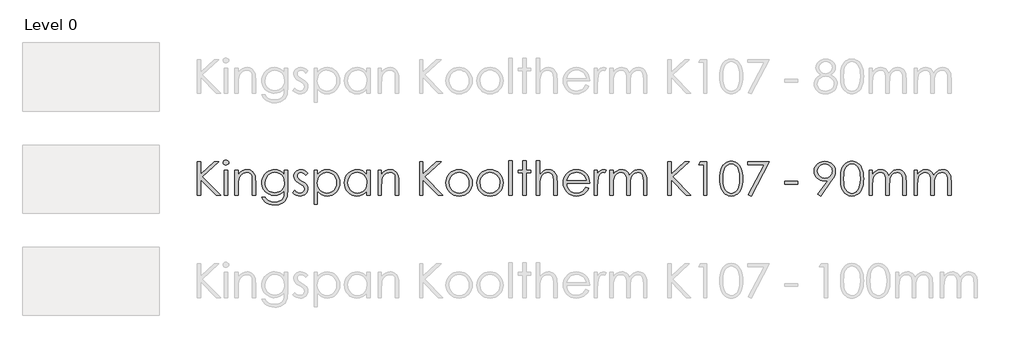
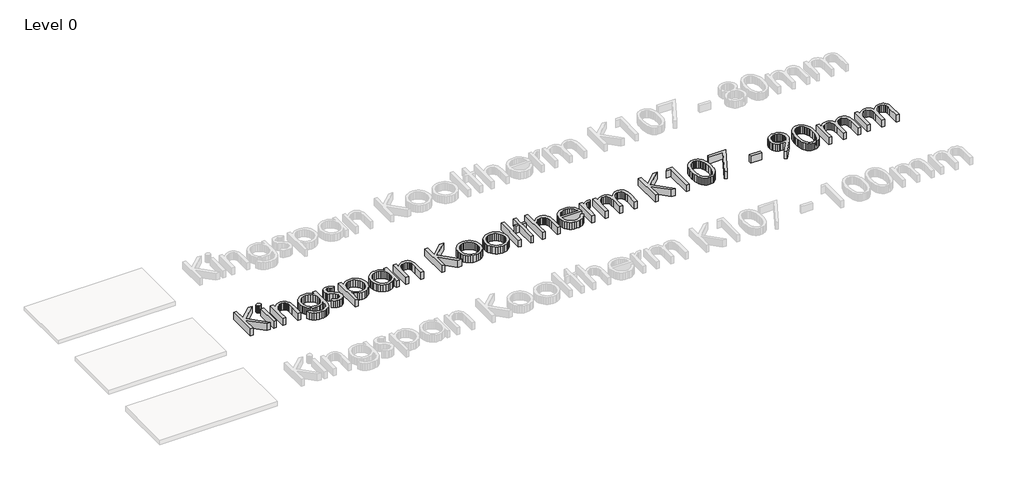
# One storey, part 6 of 13: 1 proxy.
"""IFC4 building model written with IfcOpenShell, lengths in millimetres."""

from ifc_helpers import new_model, si_unit, origin, origin_with_axes, place, context, project, spatial, polyline, outline, extrude, element, save

model = new_model("IFC4")

# Units and contexts
model_context = context("Model", 3, world=origin())
ifc_project = project(units=[si_unit("LENGTHUNIT", "METRE", prefix="MILLI")], contexts=[model_context])

# Site, building, storey
site = spatial("IfcSite", under=ifc_project)
building = spatial("IfcBuilding", under=site)
storey = spatial("IfcBuildingStorey", under=building, Name="Level 0", Elevation=0.0)

# Proxy
placement = place(None, origin())
element("IfcBuildingElementProxy", 1, Name="600mm KI_CenturyGothic", ObjectType="600mm KI_CenturyGothic", at=placement, inside=storey, context=model_context, shape_type="SweptSolid", body=[
    extrude(outline(polyline([(-3852.2663848, -6699.1034017), (-3792.944575, -6699.1034017), (-3792.944575, -6918.316027), (-3555.1938841, -6699.1034017), (-3471.6181051, -6699.1034017), (-3760.9664119, -6966.0515459), (-3441.9572002, -7292.3214999), (-3520.8984627, -7292.3214999), (-3792.944575, -7014.0960325), (-3792.944575, -7292.3214999), (-3852.2663848, -7292.3214999), (-3852.2663848, -6699.1034017)])), origin_with_axes(), (0.0, 0.0, 1.0), 150.0),
    extrude(outline(polyline([(-3348.1854852, -6669.4424967), (-3329.145347, -6672.7252792), (-3313.1176445, -6682.5736265), (-3302.226531, -6697.0178693), (-3298.5961598, -6714.088338), (-3302.226531, -6730.9270809), (-3313.1176445, -6745.2940817), (-3329.145347, -6755.142429), (-3348.1854852, -6758.4252115), (-3366.9938975, -6755.142429), (-3382.9443581, -6745.2940817), (-3393.8354717, -6730.9270809), (-3397.4658428, -6714.088338), (-3393.8354717, -6697.0178693), (-3382.9443581, -6682.5736265), (-3366.9938975, -6672.7252792), (-3348.1854852, -6669.4424967)])), origin_with_axes(), (0.0, 0.0, 1.0), 150.0),
    extrude(outline(polyline([(-3377.6919062, -6847.4079262), (-3318.3700964, -6847.4079262), (-3318.3700964, -7292.3214999), (-3377.6919062, -7292.3214999), (-3377.6919062, -6847.4079262)])), origin_with_axes(), (0.0, 0.0, 1.0), 150.0),
    extrude(outline(polyline([(-3189.8395084, -6847.4079262), (-3130.5176986, -6847.4079262), (-3130.5176986, -6926.5036726), (-3096.9946967, -6886.9944204), (-3060.0730495, -6859.303185), (-3019.7141359, -6842.9665147), (-2975.879335, -6837.5209579), (-2953.4357238, -6839.0995901), (-2932.2955704, -6843.8354865), (-2912.4588747, -6851.7286472), (-2893.9256368, -6862.7790723), (-2877.212412, -6876.5039994), (-2862.835756, -6892.4206667), (-2841.0921499, -6930.8292213), (-2833.6238199, -6955.2087086), (-2828.2892984, -6985.5551357), (-2824.0216812, -7064.1488095), (-2824.0216812, -7292.3214999), (-2883.343491, -7292.3214999), (-2883.343491, -7079.1337458), (-2883.343491, -6976.092998), (-2884.7290183, -6955.2956057), (-2889.8125035, -6937.2403023), (-2898.2849788, -6921.9270877), (-2910.1464442, -6909.355962), (-2924.7403432, -6899.5558909), (-2941.4101193, -6892.5558401), (-2980.977303, -6886.9557994), (-3005.3471351, -6889.1137461), (-3028.4038541, -6895.5875862), (-3050.1474602, -6906.3773197), (-3070.5779533, -6921.4829466), (-3088.6622225, -6939.7651482), (-3103.3671568, -6960.084606), (-3114.6927562, -6982.44132), (-3122.6390208, -7006.8352901), (-3128.5480292, -7053.9142525), (-3130.5176986, -7128.4141035), (-3130.5176986, -7292.3214999), (-3189.8395084, -7292.3214999), (-3189.8395084, -6847.4079262)])), origin_with_axes(), (0.0, 0.0, 1.0), 150.0),
    extrude(outline(polyline([(-2319.7862977, -6847.4079262), (-2260.4644879, -6847.4079262), (-2260.4644879, -7198.395301), (-2264.5196897, -7278.6496765), (-2269.588692, -7309.4499001), (-2276.6852953, -7334.0321474), (-2289.9371156, -7362.6454585), (-2307.2924139, -7387.7732271), (-2328.7511904, -7409.4154531), (-2354.3134448, -7427.5721366), (-2383.3226209, -7441.9343098), (-2415.122162, -7452.1930049), (-2449.7120682, -7458.348222), (-2487.0923395, -7460.3999611), (-2541.0458345, -7456.3833802), (-2589.206184, -7444.3336376), (-2630.260275, -7425.5059147), (-2662.8949946, -7401.1553932), (-2690.2000204, -7367.8061856), (-2715.2650299, -7321.9824048), (-2655.94322, -7321.9824048), (-2642.4355358, -7343.151524), (-2627.0933555, -7361.3951046), (-2609.9166791, -7376.7131468), (-2590.9055067, -7389.1056506), (-2569.7894914, -7398.6691682), (-2546.2982864, -7405.5002523), (-2492.1903075, -7410.9651195), (-2438.5071593, -7405.6354257), (-2415.083541, -7398.9733084), (-2393.93856, -7389.6463441), (-2359.6624492, -7365.6047903), (-2336.8567664, -7336.1176798), (-2329.3884364, -7317.4782342), (-2324.0539149, -7293.7697863), (-2319.7862977, -7231.1458835), (-2319.7862977, -7208.4367532), (-2354.757586, -7244.2190818), (-2396.6420279, -7270.6165148), (-2443.392712, -7286.8952536), (-2492.9627269, -7292.3214999), (-2522.4063889, -7290.4242447), (-2550.9521133, -7284.7324793), (-2578.5999001, -7275.2462036), (-2605.3497494, -7261.9654175), (-2630.1540674, -7245.4742634), (-2651.9652601, -7226.3568832), (-2670.7833277, -7204.6132772), (-2686.6082702, -7180.2434451), (-2699.1456025, -7153.9280817), (-2708.1008399, -7126.3478816), (-2713.4739824, -7097.5028447), (-2715.2650299, -7067.392971), (-2713.3967404, -7037.1044753), (-2707.7918722, -7007.8780563), (-2698.4504251, -6979.713714), (-2685.3723991, -6952.6114483), (-2668.9971079, -6927.4257483), (-2649.7638648, -6905.0111029), (-2627.67267, -6885.367512), (-2602.7235235, -6868.4949758), (-2575.9833294, -6854.943843), (-2548.5189922, -6845.2644624), (-2520.3305117, -6839.456834), (-2491.4178881, -6837.5209579), (-2444.5320306, -6842.4644421), (-2400.8903346, -6857.2948945), (-2359.6045177, -6883.8661218), (-2319.7862977, -6924.0319306), (-2319.7862977, -6847.4079262)]), holes=[polyline([(-2484.1571458, -6886.9557994), (-2529.0154023, -6892.9806707), (-2570.5908765, -6911.0552847), (-2606.2187212, -6939.7699758), (-2633.2340897, -6977.7150788), (-2650.2659375, -7021.9940208), (-2655.94322, -7069.7102292), (-2653.0080263, -7105.6229036), (-2644.2024452, -7138.2817613), (-2629.5264766, -7167.6868023), (-2608.9801206, -7193.8380266), (-2583.7606272, -7215.296803), (-2555.0652466, -7230.6245004), (-2522.8939786, -7239.8211189), (-2487.2468234, -7242.8866584), (-2451.3244937, -7239.845257), (-2419.1001219, -7230.7210528), (-2390.573708, -7215.5140459), (-2365.7452519, -7194.2242363), (-2345.6382095, -7167.9812872), (-2331.2760363, -7137.9148621), (-2322.6587323, -7104.024961), (-2319.7862977, -7066.3115838), (-2325.0773706, -7017.6105407), (-2340.9505892, -6974.3936754), (-2366.4983608, -6938.1672056), (-2400.8130926, -6910.4373492), (-2440.9982119, -6892.8261869), (-2484.1571458, -6886.9557994)])]), origin_with_axes(), (0.0, 0.0, 1.0), 150.0),
    extrude(outline(polyline([(-1904.5336289, -6898.6965743), (-1940.9918246, -6936.390641), (-1962.9575012, -6914.7628978), (-1984.6721416, -6899.3145098), (-2006.1357456, -6890.045477), (-2027.3483133, -6886.9557994), (-2052.181597, -6891.6289368), (-2073.2300256, -6905.6483489), (-2087.5970264, -6925.8857371), (-2092.3860267, -6949.212803), (-2088.4466878, -6970.7633042), (-2076.628671, -6991.2324183), (-2052.0657341, -7013.400855), (-2010.2006027, -7039.122421), (-1958.3326401, -7071.9888664), (-1939.8428507, -7087.8138088), (-1926.315856, -7103.2332311), (-1909.9791857, -7135.9065716), (-1904.5336289, -7172.4420092), (-1906.9474396, -7198.5884059), (-1914.1888714, -7222.6492701), (-1926.2579245, -7244.624602), (-1943.1545989, -7264.5144015), (-1963.6719892, -7281.0055557), (-1986.6031901, -7292.7849515), (-2011.9482016, -7299.852589), (-2039.7070237, -7302.2084682), (-2077.4397114, -7298.3270607), (-2113.3958344, -7286.6828383), (-2145.4512394, -7268.2027042), (-2171.4817731, -7243.8135617), (-2135.7959969, -7203.3387852), (-2114.0041146, -7224.9665283), (-2091.5749863, -7240.4149163), (-2068.5086121, -7249.6839491), (-2044.8049918, -7252.7736267), (-2013.637869, -7247.1349651), (-1987.4914724, -7230.2189802), (-1969.7644472, -7205.6560434), (-1963.8554388, -7177.0765256), (-1967.7561567, -7153.2860081), (-1979.4583106, -7132.2762005), (-2005.0253927, -7110.5712154), (-2050.2119275, -7083.7682622), (-2099.762632, -7053.1032121), (-2117.441381, -7037.9444814), (-2130.3890611, -7022.9016136), (-2146.3781427, -6990.7689666), (-2151.7078365, -6954.310771), (-2149.5305794, -6930.2643896), (-2142.9988078, -6908.3325063), (-2132.1125219, -6888.5151211), (-2116.8717217, -6870.812234), (-2098.309518, -6856.2473007), (-2077.4590218, -6845.8437769), (-2054.3202332, -6839.6016627), (-2028.8931521, -6837.5209579), (-1997.9481, -6841.3444339), (-1966.9064954, -6852.814862), (-1935.7683384, -6871.9322421), (-1904.5336289, -6898.6965743)])), origin_with_axes(), (0.0, 0.0, 1.0), 150.0),
    extrude(outline(polyline([(-1795.7769776, -6847.4079262), (-1736.4551678, -6847.4079262), (-1736.4551678, -6928.5119631), (-1700.9238754, -6888.2689124), (-1660.4490989, -6859.9211205), (-1614.9922173, -6843.1209986), (-1564.5146096, -6837.5209579), (-1520.0618732, -6841.7596094), (-1478.9305402, -6854.4755637), (-1441.1206107, -6875.668821), (-1406.6320845, -6905.3393811), (-1377.9077381, -6940.9768811), (-1357.3903478, -6980.070958), (-1345.0799137, -7022.6216116), (-1340.9764356, -7068.628842), (-1345.0412927, -7115.5291824), (-1357.235864, -7158.7508754), (-1377.5601494, -7198.293921), (-1406.014149, -7234.1583192), (-1440.2130179, -7263.9302594), (-1477.7719111, -7285.1959309), (-1518.6908288, -7297.9553339), (-1562.9697708, -7302.2084682), (-1612.6170277, -7296.743601), (-1658.0545988, -7280.3489992), (-1699.3211052, -7253.1019049), (-1736.4551678, -7215.07956), (-1736.4551678, -7450.5129928), (-1795.7769776, -7450.5129928), (-1795.7769776, -6847.4079262)]), holes=[polyline([(-1568.5311905, -6886.9557994), (-1602.5852307, -6890.2530647), (-1633.8392507, -6900.1448607), (-1662.2932503, -6916.6311872), (-1687.9472295, -6939.7120444), (-1709.1694525, -6967.6977647), (-1724.3281832, -6998.8986808), (-1733.4234216, -7033.3147926), (-1736.4551678, -7070.9461002), (-1731.048232, -7119.8016272), (-1714.8274246, -7163.4819442), (-1688.5265441, -7200.3263495), (-1652.8793888, -7228.6741414), (-1611.4390881, -7246.7487554), (-1567.7587711, -7252.7736267), (-1525.0632888, -7246.7101344), (-1485.0326535, -7228.5196576), (-1450.2544701, -7199.4187567), (-1423.3163435, -7160.6239924), (-1406.05277, -7115.9588407), (-1400.2982454, -7069.2467775), (-1405.9948385, -7022.3029886), (-1423.0846177, -6977.8695627), (-1449.8103289, -6939.5189395), (-1484.414718, -6910.8235589), (-1524.7157001, -6892.9227393), (-1568.5311905, -6886.9557994)])]), origin_with_axes(), (0.0, 0.0, 1.0), 150.0),
    extrude(outline(polyline([(-807.0801472, -6847.4079262), (-807.0801472, -7292.3214999), (-866.401957, -7292.3214999), (-866.401957, -7216.4699149), (-903.4780882, -7254.3184655), (-944.8797679, -7281.0441767), (-990.4525125, -7296.9173953), (-1040.0418379, -7302.2084682), (-1084.3159523, -7297.9553339), (-1125.2203871, -7285.1959309), (-1162.7551422, -7263.9302594), (-1196.9202178, -7234.1583192), (-1225.340424, -7198.293921), (-1245.6405713, -7158.7508754), (-1257.8206597, -7115.5291824), (-1261.8806892, -7068.628842), (-1257.7820388, -7022.6216116), (-1245.4860875, -6980.070958), (-1224.9928353, -6940.9768811), (-1196.3022822, -6905.3393811), (-1161.8475494, -6875.668821), (-1124.061758, -6854.4755637), (-1082.9449079, -6841.7596094), (-1038.4969991, -6837.5209579), (-987.7490446, -6843.1209986), (-942.0990581, -6859.9211205), (-921.2051134, -6872.6081091), (-901.6242816, -6888.2689124), (-866.401957, -6928.5119631), (-866.401957, -6847.4079262), (-807.0801472, -6847.4079262)]), holes=[polyline([(-1034.3259343, -6886.9557994), (-1078.1414247, -6892.9227393), (-1118.4424068, -6910.8235589), (-1153.0467959, -6939.5189395), (-1179.7725071, -6977.8695627), (-1196.8622863, -7022.3029886), (-1202.5588794, -7069.2467775), (-1196.8043548, -7115.9588407), (-1179.5407813, -7160.6239924), (-1152.6026548, -7199.4187567), (-1117.8244713, -7228.5196576), (-1077.6779731, -7246.7101344), (-1034.6349021, -7252.7736267), (-991.0125165, -7246.7487554), (-949.7460102, -7228.6741414), (-914.2726493, -7200.3263495), (-888.0297002, -7163.4819442), (-871.8088928, -7119.8016272), (-866.401957, -7070.9461002), (-869.4337032, -7033.3147926), (-878.5289416, -6998.8986808), (-893.6876723, -6967.6977647), (-914.9098953, -6939.7120444), (-940.5638746, -6916.6311872), (-969.0178742, -6900.1448607), (-1000.2718941, -6890.2530647), (-1034.3259343, -6886.9557994)])]), origin_with_axes(), (0.0, 0.0, 1.0), 150.0),
    extrude(outline(polyline([(-668.662591, -6847.4079262), (-609.3407811, -6847.4079262), (-609.3407811, -6926.5036726), (-575.8177792, -6886.9944204), (-538.896132, -6859.303185), (-498.5372184, -6842.9665147), (-454.7024175, -6837.5209579), (-432.2588064, -6839.0995901), (-411.1186529, -6843.8354865), (-391.2819572, -6851.7286472), (-372.7487193, -6862.7790723), (-356.0354946, -6876.5039994), (-341.6588385, -6892.4206667), (-319.9152324, -6930.8292213), (-312.4469024, -6955.2087086), (-307.1123809, -6985.5551357), (-302.8447637, -7064.1488095), (-302.8447637, -7292.3214999), (-362.1665735, -7292.3214999), (-362.1665735, -7079.1337458), (-362.1665735, -6976.092998), (-363.5521008, -6955.2956057), (-368.635586, -6937.2403023), (-377.1080613, -6921.9270877), (-388.9695267, -6909.355962), (-403.5634257, -6899.5558909), (-420.2332018, -6892.5558401), (-459.8003855, -6886.9557994), (-484.1702176, -6889.1137461), (-507.2269366, -6895.5875862), (-528.9705427, -6906.3773197), (-549.4010358, -6921.4829466), (-567.485305, -6939.7651482), (-582.1902393, -6960.084606), (-593.5158387, -6982.44132), (-601.4621033, -7006.8352901), (-607.3711117, -7053.9142525), (-609.3407811, -7128.4141035), (-609.3407811, -7292.3214999), (-668.662591, -7292.3214999), (-668.662591, -6847.4079262)])), origin_with_axes(), (0.0, 0.0, 1.0), 150.0),
    extrude(outline(polyline([(62.9730635, -6699.1034017), (122.2948734, -6699.1034017), (122.2948734, -6918.316027), (360.0455643, -6699.1034017), (443.6213432, -6699.1034017), (154.2730365, -6966.0515459), (473.2822481, -7292.3214999), (394.3409856, -7292.3214999), (122.2948734, -7014.0960325), (122.2948734, -7292.3214999), (62.9730635, -7292.3214999), (62.9730635, -6699.1034017)])), origin_with_axes(), (0.0, 0.0, 1.0), 150.0),
    extrude(outline(polyline([(760.1588128, -6837.5209579), (809.4681362, -6842.1458191), (854.3553585, -6856.0204025), (894.8204798, -6879.1447083), (930.8635, -6911.5187363), (957.7630055, -6946.7507161), (976.9769381, -6985.091684), (988.5052976, -7026.54164), (992.3480841, -7071.1005841), (988.283227, -7115.9153921), (976.0886558, -7157.8239721), (955.7643703, -7196.8263241), (927.3103707, -7232.9224481), (892.4742558, -7263.2350819), (853.0036246, -7284.8869632), (808.8984769, -7297.8780919), (760.1588128, -7302.2084682), (711.2839754, -7297.8780919), (667.0822753, -7284.8869632), (627.5537126, -7263.2350819), (592.6982872, -7232.9224481), (564.2442876, -7196.8263241), (543.9200022, -7157.8239721), (531.7254309, -7115.9153921), (527.6605738, -7071.1005841), (531.5033603, -7026.7347449), (543.0317198, -6985.4006518), (562.2456524, -6947.0983049), (589.145158, -6911.8277041), (625.2074886, -6879.3185026), (665.7305413, -6856.0976445), (710.7143161, -6842.1651295), (760.1588128, -6837.5209579)]), holes=[polyline([(760.004329, -6886.9557994), (725.7282181, -6890.3303067), (693.9624704, -6900.4538284), (664.7070856, -6917.3263647), (637.962064, -6940.9479154), (615.6584538, -6969.3584664), (599.7273037, -7000.5980035), (590.1686137, -7034.6665266), (586.9823836, -7071.5640357), (592.7948396, -7119.2995546), (610.2322075, -7163.6364281), (637.5758543, -7201.4270471), (673.1071466, -7229.5238028), (714.6439998, -7246.9611707), (760.004329, -7252.7736267), (805.3646581, -7246.9611707), (846.9015113, -7229.5238028), (882.4328037, -7201.4270471), (909.7764504, -7163.6364281), (927.2138183, -7119.2995546), (933.0262743, -7071.5640357), (929.8255614, -7034.6665266), (920.2234227, -7000.5980035), (904.2198583, -6969.3584664), (881.8148681, -6940.9479154), (854.9974321, -6917.3263647), (825.7565303, -6900.4538284), (794.0921625, -6890.3303067), (760.004329, -6886.9557994)])]), origin_with_axes(), (0.0, 0.0, 1.0), 150.0),
    extrude(outline(polyline([(1303.9420695, -6837.5209579), (1353.2513929, -6842.1458191), (1398.1386152, -6856.0204025), (1438.6037365, -6879.1447083), (1474.6467567, -6911.5187363), (1501.5462622, -6946.7507161), (1520.7601948, -6985.091684), (1532.2885543, -7026.54164), (1536.1313408, -7071.1005841), (1532.0664837, -7115.9153921), (1519.8719125, -7157.8239721), (1499.547627, -7196.8263241), (1471.0936274, -7232.9224481), (1436.2575126, -7263.2350819), (1396.7868813, -7284.8869632), (1352.6817336, -7297.8780919), (1303.9420695, -7302.2084682), (1255.0672321, -7297.8780919), (1210.865532, -7284.8869632), (1171.3369693, -7263.2350819), (1136.4815439, -7232.9224481), (1108.0275443, -7196.8263241), (1087.7032589, -7157.8239721), (1075.5086876, -7115.9153921), (1071.4438305, -7071.1005841), (1075.286617, -7026.7347449), (1086.8149766, -6985.4006518), (1106.0289091, -6947.0983049), (1132.9284147, -6911.8277041), (1168.9907453, -6879.3185026), (1209.5137981, -6856.0976445), (1254.4975728, -6842.1651295), (1303.9420695, -6837.5209579)]), holes=[polyline([(1303.7875857, -6886.9557994), (1269.5114748, -6890.3303067), (1237.7457271, -6900.4538284), (1208.4903423, -6917.3263647), (1181.7453207, -6940.9479154), (1159.4417105, -6969.3584664), (1143.5105604, -7000.5980035), (1133.9518704, -7034.6665266), (1130.7656404, -7071.5640357), (1136.5780963, -7119.2995546), (1154.0154643, -7163.6364281), (1181.359111, -7201.4270471), (1216.8904033, -7229.5238028), (1258.4272565, -7246.9611707), (1303.7875857, -7252.7736267), (1349.1479149, -7246.9611707), (1390.684768, -7229.5238028), (1426.2160604, -7201.4270471), (1453.5597071, -7163.6364281), (1470.997075, -7119.2995546), (1476.809531, -7071.5640357), (1473.6088181, -7034.6665266), (1464.0066795, -7000.5980035), (1448.003115, -6969.3584664), (1425.5981249, -6940.9479154), (1398.7806889, -6917.3263647), (1369.539787, -6900.4538284), (1337.8754193, -6890.3303067), (1303.7875857, -6886.9557994)])]), origin_with_axes(), (0.0, 0.0, 1.0), 150.0),
    extrude(outline(polyline([(1635.0010238, -6679.3294651), (1694.3228337, -6679.3294651), (1694.3228337, -7292.3214999), (1635.0010238, -7292.3214999), (1635.0010238, -6679.3294651)])), origin_with_axes(), (0.0, 0.0, 1.0), 150.0),
    extrude(outline(polyline([(1882.1752314, -6679.3294651), (1941.4970413, -6679.3294651), (1941.4970413, -6847.4079262), (2020.5927877, -6847.4079262), (2020.5927877, -6896.8427677), (1941.4970413, -6896.8427677), (1941.4970413, -7292.3214999), (1882.1752314, -7292.3214999), (1882.1752314, -6896.8427677), (1803.079485, -6896.8427677), (1803.079485, -6847.4079262), (1882.1752314, -6847.4079262), (1882.1752314, -6679.3294651)])), origin_with_axes(), (0.0, 0.0, 1.0), 150.0),
    extrude(outline(polyline([(2119.4624707, -6679.3294651), (2178.7842806, -6679.3294651), (2178.7842806, -6928.0485114), (2212.5583188, -6888.3461544), (2249.6151394, -6860.0756044), (2289.9161216, -6843.1596195), (2333.4226442, -6837.5209579), (2355.8662553, -6839.0995901), (2377.0064088, -6843.8354865), (2396.8431044, -6851.7286472), (2415.3763424, -6862.7790723), (2432.0895671, -6876.4895166), (2446.4662232, -6892.3627352), (2468.2098293, -6930.5974955), (2475.6781593, -6954.9045684), (2481.0126808, -6985.2654784), (2485.280298, -7064.1488095), (2485.280298, -7292.3214999), (2425.9584882, -7292.3214999), (2425.9584882, -7079.1337458), (2424.5681332, -7014.752589), (2420.3970685, -6976.092998), (2406.879729, -6937.2403023), (2397.1665551, -6921.9270877), (2385.4837117, -6909.355962), (2371.840854, -6899.5558909), (2356.2476374, -6892.5558401), (2319.2101273, -6886.9557994), (2296.3416854, -6889.1137461), (2274.6994594, -6895.5875862), (2254.2834492, -6906.3773197), (2235.0936547, -6921.4829466), (2218.1052556, -6939.7651482), (2204.2934312, -6960.084606), (2193.6581816, -6982.44132), (2186.1995068, -7006.8352901), (2180.6380871, -7053.6825267), (2178.7842806, -7128.4141035), (2178.7842806, -7292.3214999), (2119.4624707, -7292.3214999), (2119.4624707, -6679.3294651)])), origin_with_axes(), (0.0, 0.0, 1.0), 150.0),
    extrude(outline(polyline([(2991.0605203, -7144.0169753), (3038.950523, -7169.1978477), (3013.3255094, -7211.0822896), (2984.0315038, -7244.0452875), (2950.952643, -7269.1296074), (2913.9730643, -7287.3780157), (2872.4941426, -7298.5008551), (2825.9172528, -7302.2084682), (2774.4258447, -7297.7767119), (2728.8627554, -7284.481443), (2689.227985, -7262.3226615), (2655.5215335, -7231.3003674), (2628.6220279, -7194.6973431), (2609.4080954, -7155.7963712), (2597.8797358, -7114.5974515), (2594.0369493, -7071.1005841), (2597.3197318, -7030.2202874), (2607.1680791, -6991.618628), (2623.5819913, -6955.2956057), (2646.5614684, -6921.2512207), (2682.7493173, -6884.6192308), (2724.5758277, -6858.4535236), (2772.0409998, -6842.7540993), (2825.1448334, -6837.5209579), (2879.7935059, -6842.8892727), (2928.6490329, -6858.9942172), (2971.7114143, -6885.8357913), (3008.9806503, -6923.4139951), (3030.4539096, -6955.585263), (3045.9022976, -6991.541386), (3055.3258143, -7031.2823641), (3058.7244596, -7074.8081972), (2653.3587591, -7074.8081972), (2657.095338, -7112.0629503), (2666.6057518, -7145.8128504), (2681.8900007, -7176.0578975), (2702.9480845, -7202.7980916), (2728.3124066, -7224.6623882), (2756.5153699, -7240.2797429), (2787.5569744, -7249.6501557), (2821.4372203, -7252.7736267), (2854.9602222, -7249.761191), (2887.5563208, -7240.7238841), (2917.2944677, -7226.6851615), (2942.2436143, -7208.668479), (2965.725164, -7182.5027719), (2991.0605203, -7144.0169753)]), holes=[polyline([(2999.4026498, -7025.3733557), (2984.9777175, -6982.8516678), (2965.1844704, -6949.8307385), (2939.0766947, -6924.3022774), (2905.7081767, -6904.257994), (2867.7630738, -6891.2813481), (2827.9255433, -6886.9557994), (2795.503239, -6889.6689226), (2765.4368139, -6897.808292), (2737.726268, -6911.3739077), (2712.3716012, -6930.3657696), (2695.8321708, -6948.179692), (2681.4362043, -6969.9522638), (2669.1837016, -6995.683485), (2659.0746627, -7025.3733557), (2999.4026498, -7025.3733557)])]), origin_with_axes(), (0.0, 0.0, 1.0), 150.0),
    extrude(outline(polyline([(3137.820206, -6847.4079262), (3197.1420159, -6847.4079262), (3197.1420159, -6911.8277041), (3222.6897875, -6878.7874643), (3249.589293, -6855.6728138), (3277.7632906, -6842.0589219), (3307.1345382, -6837.5209579), (3330.4616041, -6841.305813), (3355.3335087, -6852.6603781), (3325.8270877, -6894.6799934), (3297.2475699, -6886.9557994), (3270.8308265, -6892.9034288), (3245.3409863, -6910.7463169), (3223.2884125, -6941.1023993), (3207.183468, -6984.5896114), (3199.6523789, -7042.7141712), (3197.1420159, -7140.1548783), (3197.1420159, -7292.3214999), (3137.820206, -7292.3214999), (3137.820206, -6847.4079262)])), origin_with_axes(), (0.0, 0.0, 1.0), 150.0),
    extrude(outline(polyline([(3414.6553185, -6847.4079262), (3473.9771284, -6847.4079262), (3473.9771284, -6923.5684789), (3503.5607913, -6887.0716623), (3533.9168737, -6861.9294109), (3577.3268439, -6843.6230712), (3622.8995884, -6837.5209579), (3653.7384329, -6840.668567), (3682.9165757, -6850.1113941), (3708.6767627, -6864.7873627), (3729.2617397, -6883.634396), (3746.0425511, -6909.0663047), (3760.3902414, -6943.4968994), (3775.16759, -6919.0981017), (3791.6925376, -6897.808292), (3809.965084, -6879.6274704), (3829.9852293, -6864.5556369), (3851.2798666, -6852.7279648), (3873.375889, -6844.2796277), (3896.2732965, -6839.2106253), (3919.9720892, -6837.5209579), (3962.3006723, -6843.3334139), (3981.4952943, -6850.5989839), (3999.3768034, -6860.7707818), (4015.4914031, -6873.53984), (4029.385297, -6888.5971907), (4050.5109676, -6925.5767694), (4057.8103309, -6948.9521114), (4063.0241619, -6977.5219739), (4067.1952266, -7050.2452603), (4067.1952266, -7292.3214999), (4007.8734168, -7292.3214999), (4007.8734168, -7046.6921311), (4005.4209852, -6985.5744462), (3998.0636904, -6947.1272706), (3984.7587663, -6922.6608861), (3964.4634466, -6903.4855746), (3938.3942919, -6891.0882432), (3907.7678627, -6886.9557994), (3888.1194443, -6888.5054659), (3869.3399976, -6893.1544651), (3834.3880198, -6911.7504621), (3805.6540182, -6940.6968791), (3785.8800816, -6977.9468046), (3779.1889985, -7002.1042213), (3774.4096535, -7033.1747916), (3770.5861775, -7116.0553931), (3770.5861775, -7292.3214999), (3711.2643677, -7292.3214999), (3711.2643677, -7061.9860352), (3708.850557, -6993.530366), (3701.6091252, -6951.2983353), (3688.3621325, -6925.0553863), (3667.9316394, -6904.5669617), (3641.6114484, -6891.35859), (3610.6953619, -6886.9557994), (3573.7544042, -6892.9999812), (3539.2465676, -6911.1325266), (3510.2808401, -6939.499629), (3489.9662099, -6976.2474819), (3477.9743988, -7028.0768236), (3473.9771284, -7101.6883923), (3473.9771284, -7292.3214999), (3414.6553185, -7292.3214999), (3414.6553185, -6847.4079262)])), origin_with_axes(), (0.0, 0.0, 1.0), 150.0),
    extrude(outline(polyline([(4433.0130538, -6699.1034017), (4492.3348637, -6699.1034017), (4492.3348637, -6918.316027), (4730.0855546, -6699.1034017), (4813.6613335, -6699.1034017), (4524.3130268, -6966.0515459), (4843.3222385, -7292.3214999), (4764.3809759, -7292.3214999), (4492.3348637, -7014.0960325), (4492.3348637, -7292.3214999), (4433.0130538, -7292.3214999), (4433.0130538, -6699.1034017)])), origin_with_axes(), (0.0, 0.0, 1.0), 150.0),
    extrude(outline(polyline([(5010.6282802, -6699.1034017), (5125.1008351, -6699.1034017), (5125.1008351, -7292.3214999), (5065.7790253, -7292.3214999), (5065.7790253, -6748.5382432), (4976.7963106, -6748.5382432), (5010.6282802, -6699.1034017)])), origin_with_axes(), (0.0, 0.0, 1.0), 150.0),
    extrude(outline(polyline([(5352.5011061, -6995.8669347), (5354.0797383, -6941.4355052), (5358.8156347, -6893.5406748), (5366.7087954, -6852.1824436), (5377.7592204, -6817.3608116), (5391.6869077, -6787.7192172), (5408.2118552, -6761.9010988), (5427.334063, -6739.9064564), (5449.053531, -6721.73529), (5472.747496, -6707.5082902), (5497.793195, -6697.3461475), (5524.190628, -6691.2488619), (5551.9397949, -6689.2164334), (5580.1427582, -6691.2633448), (5606.974677, -6697.404079), (5632.4355515, -6707.638636), (5656.5253815, -6721.9670159), (5678.7083011, -6740.3843909), (5698.4484443, -6762.8859335), (5715.7458112, -6789.4716437), (5730.6004018, -6820.1415214), (5742.5294539, -6855.6583309), (5751.0502054, -6896.7848363), (5756.1626563, -6943.5210375), (5757.8668066, -6995.8669347), (5756.1867944, -7048.0535203), (5751.1467578, -7094.6207548), (5742.7466968, -7135.5686382), (5730.9866115, -7170.8971704), (5716.2768496, -7201.4222195), (5699.0277589, -7227.9596535), (5679.2393394, -7250.5094723), (5656.9115912, -7269.071676), (5632.6527944, -7283.5690226), (5607.0712295, -7293.9242701), (5580.1668963, -7300.1374187), (5551.9397949, -7302.2084682), (5524.2147661, -7300.2001778), (5497.8897474, -7294.1753064), (5472.964739, -7284.1338543), (5449.4397407, -7270.0758212), (5427.8651013, -7252.0398282), (5408.7911698, -7230.0644964), (5392.2179461, -7204.1498255), (5378.1454301, -7174.2958158), (5366.9260384, -7139.2762513), (5358.9121871, -7097.8649163), (5354.1038764, -7050.0618107), (5352.5011061, -6995.8669347)]), holes=[polyline([(5411.8229159, -6995.7124508), (5416.206396, -7084.038609), (5421.6857461, -7119.0195525), (5429.3568363, -7147.8790723), (5439.1713903, -7172.1185586), (5451.0811319, -7193.2394015), (5465.0860611, -7211.2416011), (5481.1861779, -7226.1251574), (5516.4857445, -7246.1115094), (5534.8886366, -7251.1080973), (5553.7936014, -7252.7736267), (5572.7854634, -7251.1418907), (5591.1400794, -7246.2466828), (5625.9375733, -7226.665851), (5641.694929, -7211.9898824), (5655.4439943, -7194.0697524), (5667.1847692, -7172.9054608), (5676.9172536, -7148.4970078), (5686.3793912, -7115.1381451), (5693.138061, -7078.5544313), (5698.5449967, -6995.7124508), (5693.7173755, -6914.1063413), (5687.682849, -6879.4150551), (5679.2345118, -6848.7982811), (5668.652366, -6822.135329), (5656.2164137, -6799.3055082), (5641.9266548, -6780.3088186), (5625.7830894, -6765.1452603), (5590.7152487, -6745.2747712), (5572.4861509, -6740.307149), (5553.7936014, -6738.6512749), (5534.7776014, -6740.307149), (5516.3505711, -6745.2747712), (5481.2634199, -6765.1452603), (5465.3177869, -6779.9564022), (5451.3900996, -6797.8958428), (5439.480358, -6818.9635819), (5429.5885621, -6843.1596195), (5421.8160919, -6872.0143117), (5416.2643275, -6907.0580143), (5411.8229159, -6995.7124508)])]), origin_with_axes(), (0.0, 0.0, 1.0), 150.0),
    extrude(outline(polyline([(5846.8495213, -6699.1034017), (6222.5543169, -6699.1034017), (5906.1713311, -7302.2084682), (5852.2564571, -7279.8083056), (6130.9453762, -6748.5382432), (5846.8495213, -6748.5382432), (5846.8495213, -6699.1034017)])), origin_with_axes(), (0.0, 0.0, 1.0), 150.0),
    extrude(outline(polyline([(6499.3894294, -7045.1472923), (6726.7897004, -7045.1472923), (6726.7897004, -7094.5821338), (6499.3894294, -7094.5821338), (6499.3894294, -7045.1472923)])), origin_with_axes(), (0.0, 0.0, 1.0), 150.0),
    extrude(outline(polyline([(7132.1554008, -7302.2084682), (7081.1757205, -7274.5558537), (7254.5066336, -7029.3899366), (7192.24963, -7035.260324), (7156.3514385, -7032.1899569), (7123.2725777, -7022.9788556), (7093.0130478, -7007.62702), (7065.5728486, -6986.1344502), (7042.7961316, -6960.1521927), (7026.527048, -6931.3312939), (7016.7655979, -6899.6717538), (7013.5117812, -6865.1735724), (7015.0421371, -6841.1368462), (7019.6332049, -6818.3070254), (7027.2849846, -6796.6841098), (7037.9974761, -6776.2680996), (7051.5196432, -6757.450032), (7067.6004496, -6740.6209443), (7107.4379801, -6712.9297089), (7154.0148698, -6695.1447522), (7203.835921, -6689.2164334), (7252.5562746, -6695.0481998), (7297.3759102, -6712.5434992), (7317.6615747, -6725.3753165), (7335.6492914, -6740.5437024), (7351.3390604, -6758.048657), (7364.7308818, -6777.8901803), (7383.095153, -6821.2615296), (7389.2165767, -6867.3363467), (7385.3931007, -6904.180752), (7373.9226726, -6942.72448), (7352.6038972, -6986.1344502), (7319.2353792, -7037.5775822), (7132.1554008, -7302.2084682)]), holes=[polyline([(7204.7628243, -6985.8254825), (7231.0154286, -6983.5613281), (7254.7769804, -6976.768865), (7276.0474796, -6965.4480932), (7294.8269262, -6949.5990127), (7310.1691065, -6930.5540469), (7321.1278067, -6909.6456193), (7327.7030268, -6886.8737299), (7329.8947669, -6862.2383787), (7327.5437153, -6837.6030275), (7320.4905607, -6814.8311381), (7308.735303, -6793.9227105), (7292.2779422, -6774.8777447), (7272.4798675, -6759.0286641), (7250.702468, -6747.7078923), (7226.9457439, -6740.9154292), (7201.2096951, -6738.6512749), (7175.6088196, -6740.9154292), (7151.9486479, -6747.7078923), (7130.2291799, -6759.0286641), (7110.4504157, -6774.8777447), (7093.9930549, -6793.9227105), (7082.2377972, -6814.8311381), (7075.1846425, -6837.6030275), (7072.833591, -6862.2383787), (7075.2474016, -6886.8737299), (7082.4888335, -6909.6456193), (7094.5578866, -6930.5540469), (7111.4545609, -6949.5990127), (7131.7691911, -6965.4480932), (7154.0921117, -6976.768865), (7178.4233228, -6983.5613281), (7204.7628243, -6985.8254825)])]), origin_with_axes(), (0.0, 0.0, 1.0), 150.0),
    extrude(outline(polyline([(7478.1992914, -6995.8669347), (7479.7779236, -6941.4355052), (7484.51382, -6893.5406748), (7492.4069808, -6852.1824436), (7503.4574058, -6817.3608116), (7517.3850931, -6787.7192172), (7533.9100406, -6761.9010988), (7553.0322483, -6739.9064564), (7574.7517163, -6721.73529), (7598.4456813, -6707.5082902), (7623.4913804, -6697.3461475), (7649.8888133, -6691.2488619), (7677.6379802, -6689.2164334), (7705.8409435, -6691.2633448), (7732.6728624, -6697.404079), (7758.1337368, -6707.638636), (7782.2235668, -6721.9670159), (7804.4064864, -6740.3843909), (7824.1466297, -6762.8859335), (7841.4439966, -6789.4716437), (7856.2985871, -6820.1415214), (7868.2276392, -6855.6583309), (7876.7483907, -6896.7848363), (7881.8608416, -6943.5210375), (7883.5649919, -6995.8669347), (7881.8849797, -7048.0535203), (7876.8449431, -7094.6207548), (7868.4448822, -7135.5686382), (7856.6847968, -7170.8971704), (7841.9750349, -7201.4222195), (7824.7259442, -7227.9596535), (7804.9375247, -7250.5094723), (7782.6097765, -7269.071676), (7758.3509797, -7283.5690226), (7732.7694148, -7293.9242701), (7705.8650816, -7300.1374187), (7677.6379802, -7302.2084682), (7649.9129514, -7300.2001778), (7623.5879328, -7294.1753064), (7598.6629243, -7284.1338543), (7575.137926, -7270.0758212), (7553.5632867, -7252.0398282), (7534.4893551, -7230.0644964), (7517.9161314, -7204.1498255), (7503.8436155, -7174.2958158), (7492.6242237, -7139.2762513), (7484.6103725, -7097.8649163), (7479.8020617, -7050.0618107), (7478.1992914, -6995.8669347)]), holes=[polyline([(7537.5211013, -6995.7124508), (7541.9045814, -7084.038609), (7547.3839315, -7119.0195525), (7555.0550216, -7147.8790723), (7564.8695756, -7172.1185586), (7576.7793172, -7193.2394015), (7590.7842464, -7211.2416011), (7606.8843633, -7226.1251574), (7642.1839298, -7246.1115094), (7660.586822, -7251.1080973), (7679.4917868, -7252.7736267), (7698.4836487, -7251.1418907), (7716.8382647, -7246.2466828), (7751.6357586, -7226.665851), (7767.3931143, -7211.9898824), (7781.1421796, -7194.0697524), (7792.8829545, -7172.9054608), (7802.6154389, -7148.4970078), (7812.0775766, -7115.1381451), (7818.8362463, -7078.5544313), (7824.2431821, -6995.7124508), (7819.4155608, -6914.1063413), (7813.3810343, -6879.4150551), (7804.9326971, -6848.7982811), (7794.3505514, -6822.135329), (7781.914599, -6799.3055082), (7767.6248402, -6780.3088186), (7751.4812747, -6765.1452603), (7716.413434, -6745.2747712), (7698.1843362, -6740.307149), (7679.4917868, -6738.6512749), (7660.4757867, -6740.307149), (7642.0487564, -6745.2747712), (7606.9616052, -6765.1452603), (7591.0159723, -6779.9564022), (7577.088285, -6797.8958428), (7565.1785434, -6818.9635819), (7555.2867474, -6843.1596195), (7547.5142772, -6872.0143117), (7541.9625128, -6907.0580143), (7537.5211013, -6995.7124508)])]), origin_with_axes(), (0.0, 0.0, 1.0), 150.0),
    extrude(outline(polyline([(7982.4346749, -6847.4079262), (8041.7564848, -6847.4079262), (8041.7564848, -6923.5684789), (8071.3401477, -6887.0716623), (8101.6962301, -6861.9294109), (8145.1062003, -6843.6230712), (8190.6789448, -6837.5209579), (8221.5177893, -6840.668567), (8250.6959321, -6850.1113941), (8276.4561191, -6864.7873627), (8297.0410961, -6883.634396), (8313.8219075, -6909.0663047), (8328.1695978, -6943.4968994), (8342.9469464, -6919.0981017), (8359.471894, -6897.808292), (8377.7444404, -6879.6274704), (8397.7645856, -6864.5556369), (8419.0592229, -6852.7279648), (8441.1552454, -6844.2796277), (8464.0526529, -6839.2106253), (8487.7514456, -6837.5209579), (8530.0800287, -6843.3334139), (8549.2746507, -6850.5989839), (8567.1561598, -6860.7707818), (8583.2707595, -6873.53984), (8597.1646534, -6888.5971907), (8618.290324, -6925.5767694), (8625.5896873, -6948.9521114), (8630.8035182, -6977.5219739), (8634.974583, -7050.2452603), (8634.974583, -7292.3214999), (8575.6527732, -7292.3214999), (8575.6527732, -7046.6921311), (8573.2003416, -6985.5744462), (8565.8430468, -6947.1272706), (8552.5381227, -6922.6608861), (8532.242803, -6903.4855746), (8506.1736483, -6891.0882432), (8475.5472191, -6886.9557994), (8455.8988006, -6888.5054659), (8437.119354, -6893.1544651), (8402.1673762, -6911.7504621), (8373.4333746, -6940.6968791), (8353.659438, -6977.9468046), (8346.9683549, -7002.1042213), (8342.1890099, -7033.1747916), (8338.3655339, -7116.0553931), (8338.3655339, -7292.3214999), (8279.0437241, -7292.3214999), (8279.0437241, -7061.9860352), (8276.6299134, -6993.530366), (8269.3884816, -6951.2983353), (8256.1414889, -6925.0553863), (8235.7109958, -6904.5669617), (8209.3908048, -6891.35859), (8178.4747183, -6886.9557994), (8141.5337606, -6892.9999812), (8107.025924, -6911.1325266), (8078.0601965, -6939.499629), (8057.7455663, -6976.2474819), (8045.7537552, -7028.0768236), (8041.7564848, -7101.6883923), (8041.7564848, -7292.3214999), (7982.4346749, -7292.3214999), (7982.4346749, -6847.4079262)])), origin_with_axes(), (0.0, 0.0, 1.0), 150.0),
    extrude(outline(polyline([(8773.3921393, -6847.4079262), (8832.7139491, -6847.4079262), (8832.7139491, -6923.5684789), (8862.2976121, -6887.0716623), (8892.6536944, -6861.9294109), (8936.0636646, -6843.6230712), (8981.6364092, -6837.5209579), (9012.4752537, -6840.668567), (9041.6533964, -6850.1113941), (9067.4135834, -6864.7873627), (9087.9985604, -6883.634396), (9104.7793718, -6909.0663047), (9119.1270621, -6943.4968994), (9133.9044108, -6919.0981017), (9150.4293583, -6897.808292), (9168.7019047, -6879.6274704), (9188.72205, -6864.5556369), (9210.0166873, -6852.7279648), (9232.1127097, -6844.2796277), (9255.0101172, -6839.2106253), (9278.7089099, -6837.5209579), (9321.037493, -6843.3334139), (9340.232115, -6850.5989839), (9358.1136241, -6860.7707818), (9374.2282238, -6873.53984), (9388.1221177, -6888.5971907), (9409.2477883, -6925.5767694), (9416.5471516, -6948.9521114), (9421.7609826, -6977.5219739), (9425.9320473, -7050.2452603), (9425.9320473, -7292.3214999), (9366.6102375, -7292.3214999), (9366.6102375, -7046.6921311), (9364.1578059, -6985.5744462), (9356.8005111, -6947.1272706), (9343.495587, -6922.6608861), (9323.2002673, -6903.4855746), (9297.1311126, -6891.0882432), (9266.5046834, -6886.9557994), (9246.856265, -6888.5054659), (9228.0768183, -6893.1544651), (9193.1248405, -6911.7504621), (9164.3908389, -6940.6968791), (9144.6169023, -6977.9468046), (9137.9258192, -7002.1042213), (9133.1464742, -7033.1747916), (9129.3229982, -7116.0553931), (9129.3229982, -7292.3214999), (9070.0011884, -7292.3214999), (9070.0011884, -7061.9860352), (9067.5873778, -6993.530366), (9060.3459459, -6951.2983353), (9047.0989532, -6925.0553863), (9026.6684601, -6904.5669617), (9000.3482691, -6891.35859), (8969.4321827, -6886.9557994), (8932.4912249, -6892.9999812), (8897.9833883, -6911.1325266), (8869.0176608, -6939.499629), (8848.7030306, -6976.2474819), (8836.7112195, -7028.0768236), (8832.7139491, -7101.6883923), (8832.7139491, -7292.3214999), (8773.3921393, -7292.3214999), (8773.3921393, -6847.4079262)])), origin_with_axes(), (0.0, 0.0, 1.0), 150.0),
])

save(model, "model.ifc")
